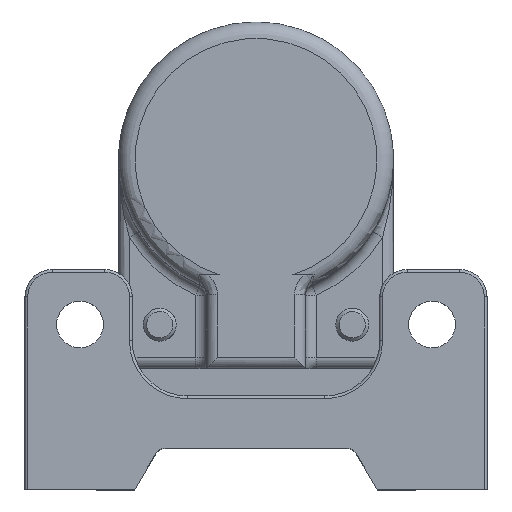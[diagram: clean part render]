
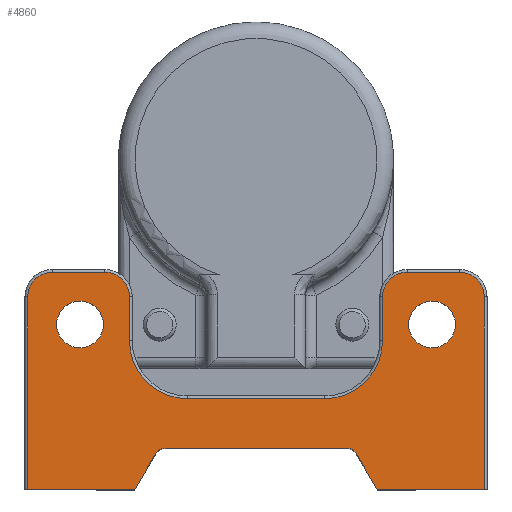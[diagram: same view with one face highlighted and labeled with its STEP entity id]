
A CAD part, top view. The second image highlights one B-rep face of the part: STEP entity #4860.
In plain terms, the highlighted planar face has unit normal (0, 0, 1).
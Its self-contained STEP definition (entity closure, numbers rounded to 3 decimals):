
#419=LINE('',#7260,#729);
#422=LINE('',#7270,#732);
#432=LINE('',#7313,#742);
#463=LINE('',#7436,#773);
#507=LINE('',#7639,#817);
#508=LINE('',#7643,#818);
#509=LINE('',#7647,#819);
#510=LINE('',#7651,#820);
#511=LINE('',#7655,#821);
#512=LINE('',#7659,#822);
#513=LINE('',#7662,#823);
#514=LINE('',#7663,#824);
#729=VECTOR('',#5799,10.);
#732=VECTOR('',#5808,10.);
#742=VECTOR('',#5832,10.);
#773=VECTOR('',#5935,10.);
#817=VECTOR('',#6125,10.);
#818=VECTOR('',#6128,10.);
#819=VECTOR('',#6131,10.);
#820=VECTOR('',#6134,10.);
#821=VECTOR('',#6137,10.);
#822=VECTOR('',#6140,10.);
#823=VECTOR('',#6143,10.);
#824=VECTOR('',#6144,10.);
#1135=FACE_BOUND('',#1514,.T.);
#1136=FACE_BOUND('',#1515,.T.);
#1230=FACE_OUTER_BOUND('',#1513,.T.);
#1513=EDGE_LOOP('',(#3568,#3569,#3570,#3571,#3572,#3573,#3574,#3575,#3576,
#3577,#3578,#3579,#3580,#3581,#3582,#3583,#3584,#3585,#3586,#3587));
#1514=EDGE_LOOP('',(#3588));
#1515=EDGE_LOOP('',(#3589));
#1782=CIRCLE('',#5148,2.);
#1784=CIRCLE('',#5152,4.25);
#1786=CIRCLE('',#5155,4.25);
#1804=CIRCLE('',#5187,2.);
#1843=CIRCLE('',#5259,4.5);
#1844=CIRCLE('',#5260,4.5);
#1845=CIRCLE('',#5261,10.5);
#1846=CIRCLE('',#5262,10.5);
#1847=CIRCLE('',#5263,4.5);
#1848=CIRCLE('',#5264,4.5);
#2101=VERTEX_POINT('',#7257);
#2102=VERTEX_POINT('',#7259);
#2106=VERTEX_POINT('',#7269);
#2116=VERTEX_POINT('',#7297);
#2117=VERTEX_POINT('',#7299);
#2120=VERTEX_POINT('',#7312);
#2123=VERTEX_POINT('',#7320);
#2125=VERTEX_POINT('',#7326);
#2164=VERTEX_POINT('',#7435);
#2215=VERTEX_POINT('',#7637);
#2216=VERTEX_POINT('',#7638);
#2217=VERTEX_POINT('',#7640);
#2218=VERTEX_POINT('',#7642);
#2219=VERTEX_POINT('',#7644);
#2220=VERTEX_POINT('',#7646);
#2221=VERTEX_POINT('',#7648);
#2222=VERTEX_POINT('',#7650);
#2223=VERTEX_POINT('',#7652);
#2224=VERTEX_POINT('',#7654);
#2225=VERTEX_POINT('',#7656);
#2226=VERTEX_POINT('',#7658);
#2227=VERTEX_POINT('',#7660);
#2578=EDGE_CURVE('',#2101,#2102,#419,.T.);
#2583=EDGE_CURVE('',#2106,#2101,#422,.T.);
#2595=EDGE_CURVE('',#2116,#2117,#1782,.T.);
#2599=EDGE_CURVE('',#2120,#2116,#432,.T.);
#2604=EDGE_CURVE('',#2123,#2123,#1784,.T.);
#2607=EDGE_CURVE('',#2125,#2125,#1786,.T.);
#2653=EDGE_CURVE('',#2117,#2164,#463,.T.);
#2658=EDGE_CURVE('',#2164,#2106,#1804,.T.);
#2741=EDGE_CURVE('',#2215,#2216,#507,.T.);
#2742=EDGE_CURVE('',#2217,#2215,#1843,.T.);
#2743=EDGE_CURVE('',#2218,#2217,#508,.T.);
#2744=EDGE_CURVE('',#2219,#2218,#1844,.T.);
#2745=EDGE_CURVE('',#2220,#2219,#509,.T.);
#2746=EDGE_CURVE('',#2221,#2220,#1845,.T.);
#2747=EDGE_CURVE('',#2222,#2221,#510,.T.);
#2748=EDGE_CURVE('',#2223,#2222,#1846,.T.);
#2749=EDGE_CURVE('',#2224,#2223,#511,.T.);
#2750=EDGE_CURVE('',#2225,#2224,#1847,.T.);
#2751=EDGE_CURVE('',#2226,#2225,#512,.T.);
#2752=EDGE_CURVE('',#2227,#2226,#1848,.T.);
#2753=EDGE_CURVE('',#2102,#2227,#513,.T.);
#2754=EDGE_CURVE('',#2216,#2120,#514,.T.);
#3568=ORIENTED_EDGE('',*,*,#2741,.F.);
#3569=ORIENTED_EDGE('',*,*,#2742,.F.);
#3570=ORIENTED_EDGE('',*,*,#2743,.F.);
#3571=ORIENTED_EDGE('',*,*,#2744,.F.);
#3572=ORIENTED_EDGE('',*,*,#2745,.F.);
#3573=ORIENTED_EDGE('',*,*,#2746,.F.);
#3574=ORIENTED_EDGE('',*,*,#2747,.F.);
#3575=ORIENTED_EDGE('',*,*,#2748,.F.);
#3576=ORIENTED_EDGE('',*,*,#2749,.F.);
#3577=ORIENTED_EDGE('',*,*,#2750,.F.);
#3578=ORIENTED_EDGE('',*,*,#2751,.F.);
#3579=ORIENTED_EDGE('',*,*,#2752,.F.);
#3580=ORIENTED_EDGE('',*,*,#2753,.F.);
#3581=ORIENTED_EDGE('',*,*,#2578,.F.);
#3582=ORIENTED_EDGE('',*,*,#2583,.F.);
#3583=ORIENTED_EDGE('',*,*,#2658,.F.);
#3584=ORIENTED_EDGE('',*,*,#2653,.F.);
#3585=ORIENTED_EDGE('',*,*,#2595,.F.);
#3586=ORIENTED_EDGE('',*,*,#2599,.F.);
#3587=ORIENTED_EDGE('',*,*,#2754,.F.);
#3588=ORIENTED_EDGE('',*,*,#2607,.T.);
#3589=ORIENTED_EDGE('',*,*,#2604,.T.);
#4706=PLANE('',#5258);
#4860=ADVANCED_FACE('',(#1230,#1135,#1136),#4706,.T.);
#5148=AXIS2_PLACEMENT_3D('',#7300,#5826,#5827);
#5152=AXIS2_PLACEMENT_3D('',#7322,#5840,#5841);
#5155=AXIS2_PLACEMENT_3D('',#7328,#5847,#5848);
#5187=AXIS2_PLACEMENT_3D('',#7454,#5940,#5941);
#5258=AXIS2_PLACEMENT_3D('',#7636,#6123,#6124);
#5259=AXIS2_PLACEMENT_3D('',#7641,#6126,#6127);
#5260=AXIS2_PLACEMENT_3D('',#7645,#6129,#6130);
#5261=AXIS2_PLACEMENT_3D('',#7649,#6132,#6133);
#5262=AXIS2_PLACEMENT_3D('',#7653,#6135,#6136);
#5263=AXIS2_PLACEMENT_3D('',#7657,#6138,#6139);
#5264=AXIS2_PLACEMENT_3D('',#7661,#6141,#6142);
#5799=DIRECTION('',(-1.,0.,0.));
#5808=DIRECTION('',(-0.5,-0.866,0.));
#5826=DIRECTION('center_axis',(0.,0.,1.));
#5827=DIRECTION('ref_axis',(-0.866,-0.5,0.));
#5832=DIRECTION('',(-0.5,0.866,0.));
#5840=DIRECTION('center_axis',(0.,0.,-1.));
#5841=DIRECTION('ref_axis',(-1.,0.,0.));
#5847=DIRECTION('center_axis',(0.,0.,-1.));
#5848=DIRECTION('ref_axis',(-1.,0.,0.));
#5935=DIRECTION('',(-1.,0.,0.));
#5940=DIRECTION('center_axis',(0.,0.,1.));
#5941=DIRECTION('ref_axis',(0.,-1.,0.));
#6123=DIRECTION('center_axis',(0.,0.,1.));
#6124=DIRECTION('ref_axis',(1.,0.,0.));
#6125=DIRECTION('',(0.,-1.,0.));
#6126=DIRECTION('center_axis',(0.,0.,-1.));
#6127=DIRECTION('ref_axis',(0.707,0.707,0.));
#6128=DIRECTION('',(1.,0.,0.));
#6129=DIRECTION('center_axis',(0.,0.,-1.));
#6130=DIRECTION('ref_axis',(-0.707,0.707,0.));
#6131=DIRECTION('',(0.,1.,0.));
#6132=DIRECTION('center_axis',(0.,0.,1.));
#6133=DIRECTION('ref_axis',(0.707,-0.707,0.));
#6134=DIRECTION('',(1.,0.,0.));
#6135=DIRECTION('center_axis',(0.,0.,1.));
#6136=DIRECTION('ref_axis',(-0.707,-0.707,0.));
#6137=DIRECTION('',(0.,-1.,0.));
#6138=DIRECTION('center_axis',(0.,0.,-1.));
#6139=DIRECTION('ref_axis',(0.707,0.707,0.));
#6140=DIRECTION('',(1.,0.,0.));
#6141=DIRECTION('center_axis',(0.,0.,-1.));
#6142=DIRECTION('ref_axis',(-0.707,0.707,0.));
#6143=DIRECTION('',(0.,1.,0.));
#6144=DIRECTION('',(-1.,0.,0.));
#7257=CARTESIAN_POINT('',(-22.,0.,59.));
#7259=CARTESIAN_POINT('',(-41.5,0.,59.));
#7260=CARTESIAN_POINT('',(-42.,0.,59.));
#7269=CARTESIAN_POINT('',(-18.247,6.5,59.));
#7270=CARTESIAN_POINT('',(-22.,0.,59.));
#7297=CARTESIAN_POINT('',(18.247,6.5,59.));
#7299=CARTESIAN_POINT('',(16.515,7.5,59.));
#7300=CARTESIAN_POINT('Origin',(16.515,5.5,59.));
#7312=CARTESIAN_POINT('',(22.,0.,59.));
#7313=CARTESIAN_POINT('',(18.247,6.5,59.));
#7320=CARTESIAN_POINT('',(-27.75,30.,59.));
#7322=CARTESIAN_POINT('Origin',(-32.,30.,59.));
#7326=CARTESIAN_POINT('',(36.25,30.,59.));
#7328=CARTESIAN_POINT('Origin',(32.,30.,59.));
#7435=CARTESIAN_POINT('',(-16.515,7.5,59.));
#7436=CARTESIAN_POINT('',(-16.515,7.5,59.));
#7454=CARTESIAN_POINT('Origin',(-16.515,5.5,59.));
#7636=CARTESIAN_POINT('Origin',(-22.158,20.292,59.));
#7637=CARTESIAN_POINT('',(41.5,35.,59.));
#7638=CARTESIAN_POINT('',(41.5,0.,59.));
#7639=CARTESIAN_POINT('',(41.5,27.646,59.));
#7640=CARTESIAN_POINT('',(37.,39.5,59.));
#7641=CARTESIAN_POINT('Origin',(37.,35.,59.));
#7642=CARTESIAN_POINT('',(27.5,39.5,59.));
#7643=CARTESIAN_POINT('',(2.421,39.5,59.));
#7644=CARTESIAN_POINT('',(23.,35.,59.));
#7645=CARTESIAN_POINT('Origin',(27.5,35.,59.));
#7646=CARTESIAN_POINT('',(23.,27.,59.));
#7647=CARTESIAN_POINT('',(23.,23.646,59.));
#7648=CARTESIAN_POINT('',(12.5,16.5,59.));
#7649=CARTESIAN_POINT('Origin',(12.5,27.,59.));
#7650=CARTESIAN_POINT('',(-12.5,16.5,59.));
#7651=CARTESIAN_POINT('',(-17.329,16.5,59.));
#7652=CARTESIAN_POINT('',(-23.,27.,59.));
#7653=CARTESIAN_POINT('Origin',(-12.5,27.,59.));
#7654=CARTESIAN_POINT('',(-23.,35.,59.));
#7655=CARTESIAN_POINT('',(-23.,27.646,59.));
#7656=CARTESIAN_POINT('',(-27.5,39.5,59.));
#7657=CARTESIAN_POINT('Origin',(-27.5,35.,59.));
#7658=CARTESIAN_POINT('',(-37.,39.5,59.));
#7659=CARTESIAN_POINT('',(-29.579,39.5,59.));
#7660=CARTESIAN_POINT('',(-41.5,35.,59.));
#7661=CARTESIAN_POINT('Origin',(-37.,35.,59.));
#7662=CARTESIAN_POINT('',(-41.5,10.146,59.));
#7663=CARTESIAN_POINT('',(22.,0.,59.));
